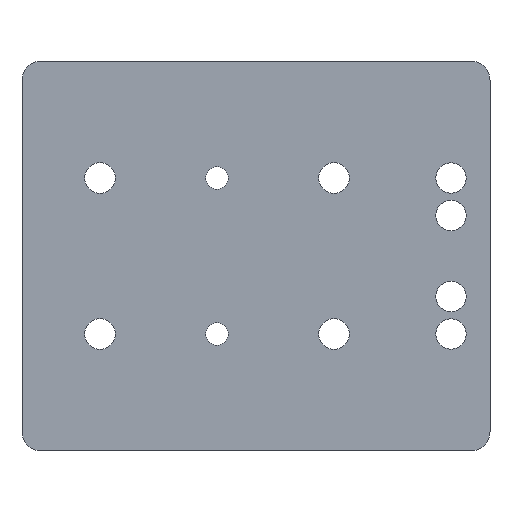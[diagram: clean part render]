
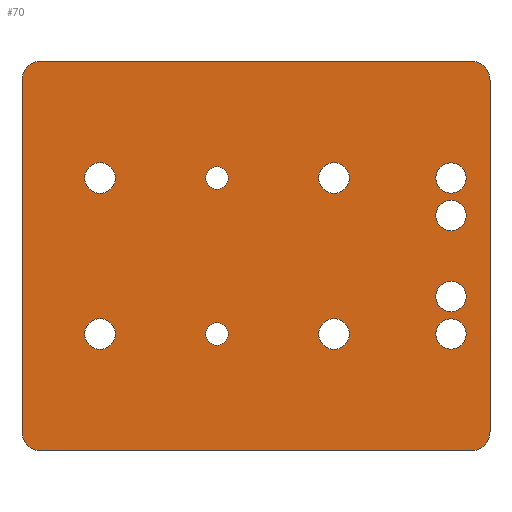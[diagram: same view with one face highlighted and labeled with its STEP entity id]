
A CAD part, front view. The second image highlights one B-rep face of the part: STEP entity #70.
In plain terms, the highlighted planar face has unit normal (0, -1, 0).
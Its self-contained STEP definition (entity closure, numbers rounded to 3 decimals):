
#70 = ADVANCED_FACE( '', ( #156, #157, #158, #159, #160, #161, #162, #163, #164, #165, #166 ), #167, .T. );
#156 = FACE_BOUND( '', #273, .T. );
#157 = FACE_BOUND( '', #274, .T. );
#158 = FACE_BOUND( '', #275, .T. );
#159 = FACE_BOUND( '', #276, .T. );
#160 = FACE_BOUND( '', #277, .T. );
#161 = FACE_BOUND( '', #278, .T. );
#162 = FACE_BOUND( '', #279, .T. );
#163 = FACE_BOUND( '', #280, .T. );
#164 = FACE_BOUND( '', #281, .T. );
#165 = FACE_BOUND( '', #282, .T. );
#166 = FACE_OUTER_BOUND( '', #283, .T. );
#167 = PLANE( '', #284 );
#273 = EDGE_LOOP( '', ( #421 ) );
#274 = EDGE_LOOP( '', ( #422 ) );
#275 = EDGE_LOOP( '', ( #423 ) );
#276 = EDGE_LOOP( '', ( #424 ) );
#277 = EDGE_LOOP( '', ( #425 ) );
#278 = EDGE_LOOP( '', ( #426 ) );
#279 = EDGE_LOOP( '', ( #427 ) );
#280 = EDGE_LOOP( '', ( #428 ) );
#281 = EDGE_LOOP( '', ( #429 ) );
#282 = EDGE_LOOP( '', ( #430 ) );
#283 = EDGE_LOOP( '', ( #431, #432, #433, #434, #435, #436, #437, #438 ) );
#284 = AXIS2_PLACEMENT_3D( '', #439, #440, #441 );
#421 = ORIENTED_EDGE( '', *, *, #602, .F. );
#422 = ORIENTED_EDGE( '', *, *, #575, .F. );
#423 = ORIENTED_EDGE( '', *, *, #564, .F. );
#424 = ORIENTED_EDGE( '', *, *, #603, .F. );
#425 = ORIENTED_EDGE( '', *, *, #604, .F. );
#426 = ORIENTED_EDGE( '', *, *, #605, .F. );
#427 = ORIENTED_EDGE( '', *, *, #606, .F. );
#428 = ORIENTED_EDGE( '', *, *, #607, .F. );
#429 = ORIENTED_EDGE( '', *, *, #608, .F. );
#430 = ORIENTED_EDGE( '', *, *, #572, .F. );
#431 = ORIENTED_EDGE( '', *, *, #609, .T. );
#432 = ORIENTED_EDGE( '', *, *, #610, .T. );
#433 = ORIENTED_EDGE( '', *, *, #611, .T. );
#434 = ORIENTED_EDGE( '', *, *, #584, .T. );
#435 = ORIENTED_EDGE( '', *, *, #612, .T. );
#436 = ORIENTED_EDGE( '', *, *, #613, .T. );
#437 = ORIENTED_EDGE( '', *, *, #599, .T. );
#438 = ORIENTED_EDGE( '', *, *, #589, .T. );
#439 = CARTESIAN_POINT( '', ( 38.1, 0., 31.75 ) );
#440 = DIRECTION( '', ( 0., -1., 0. ) );
#441 = DIRECTION( '', ( 0., 0., -1. ) );
#564 = EDGE_CURVE( '', #647, #647, #648, .T. );
#572 = EDGE_CURVE( '', #661, #661, #662, .T. );
#575 = EDGE_CURVE( '', #666, #666, #667, .T. );
#584 = EDGE_CURVE( '', #683, #681, #684, .T. );
#589 = EDGE_CURVE( '', #692, #690, #693, .T. );
#599 = EDGE_CURVE( '', #706, #692, #707, .T. );
#602 = EDGE_CURVE( '', #710, #710, #711, .T. );
#603 = EDGE_CURVE( '', #712, #712, #713, .T. );
#604 = EDGE_CURVE( '', #714, #714, #715, .T. );
#605 = EDGE_CURVE( '', #716, #716, #717, .T. );
#606 = EDGE_CURVE( '', #718, #718, #719, .T. );
#607 = EDGE_CURVE( '', #720, #720, #721, .T. );
#608 = EDGE_CURVE( '', #722, #722, #723, .T. );
#609 = EDGE_CURVE( '', #690, #724, #725, .T. );
#610 = EDGE_CURVE( '', #724, #726, #727, .T. );
#611 = EDGE_CURVE( '', #726, #683, #728, .T. );
#612 = EDGE_CURVE( '', #681, #729, #730, .T. );
#613 = EDGE_CURVE( '', #729, #706, #731, .T. );
#647 = VERTEX_POINT( '', #773 );
#648 = CIRCLE( '', #774, 2.464 );
#661 = VERTEX_POINT( '', #787 );
#662 = CIRCLE( '', #788, 1.84 );
#666 = VERTEX_POINT( '', #792 );
#667 = CIRCLE( '', #793, 2.464 );
#681 = VERTEX_POINT( '', #809 );
#683 = VERTEX_POINT( '', #812 );
#684 = CIRCLE( '', #813, 3.175 );
#690 = VERTEX_POINT( '', #820 );
#692 = VERTEX_POINT( '', #823 );
#693 = CIRCLE( '', #824, 3.175 );
#706 = VERTEX_POINT( '', #841 );
#707 = LINE( '', #842, #843 );
#710 = VERTEX_POINT( '', #847 );
#711 = CIRCLE( '', #848, 2.464 );
#712 = VERTEX_POINT( '', #849 );
#713 = CIRCLE( '', #850, 2.464 );
#714 = VERTEX_POINT( '', #851 );
#715 = CIRCLE( '', #852, 2.488 );
#716 = VERTEX_POINT( '', #853 );
#717 = CIRCLE( '', #854, 2.488 );
#718 = VERTEX_POINT( '', #855 );
#719 = CIRCLE( '', #856, 2.488 );
#720 = VERTEX_POINT( '', #857 );
#721 = CIRCLE( '', #858, 2.488 );
#722 = VERTEX_POINT( '', #859 );
#723 = CIRCLE( '', #860, 1.84 );
#724 = VERTEX_POINT( '', #861 );
#725 = LINE( '', #862, #863 );
#726 = VERTEX_POINT( '', #864 );
#727 = CIRCLE( '', #865, 3.175 );
#728 = LINE( '', #866, #867 );
#729 = VERTEX_POINT( '', #868 );
#730 = LINE( '', #869, #870 );
#731 = CIRCLE( '', #871, 3.175 );
#773 = CARTESIAN_POINT( '', ( 31.75, 0., -9.068 ) );
#774 = AXIS2_PLACEMENT_3D( '', #919, #920, #921 );
#787 = CARTESIAN_POINT( '', ( -6.35, 0., 10.86 ) );
#788 = AXIS2_PLACEMENT_3D( '', #937, #938, #939 );
#792 = CARTESIAN_POINT( '', ( 31.75, 0., -15.164 ) );
#793 = AXIS2_PLACEMENT_3D( '', #943, #944, #945 );
#809 = CARTESIAN_POINT( '', ( -38.1, 0., 28.575 ) );
#812 = CARTESIAN_POINT( '', ( -34.925, 0., 31.75 ) );
#813 = AXIS2_PLACEMENT_3D( '', #958, #959, #960 );
#820 = CARTESIAN_POINT( '', ( 38.1, 0., -28.575 ) );
#823 = CARTESIAN_POINT( '', ( 34.925, 0., -31.75 ) );
#824 = AXIS2_PLACEMENT_3D( '', #966, #967, #968 );
#841 = CARTESIAN_POINT( '', ( -34.925, 0., -31.75 ) );
#842 = CARTESIAN_POINT( '', ( -38.1, 0., -31.75 ) );
#843 = VECTOR( '', #979, 1000. );
#847 = CARTESIAN_POINT( '', ( 31.75, 0., 10.236 ) );
#848 = AXIS2_PLACEMENT_3D( '', #981, #982, #983 );
#849 = CARTESIAN_POINT( '', ( 31.75, 0., 4.14 ) );
#850 = AXIS2_PLACEMENT_3D( '', #984, #985, #986 );
#851 = CARTESIAN_POINT( '', ( -25.4, 0., 10.212 ) );
#852 = AXIS2_PLACEMENT_3D( '', #987, #988, #989 );
#853 = CARTESIAN_POINT( '', ( -25.4, 0., -15.188 ) );
#854 = AXIS2_PLACEMENT_3D( '', #990, #991, #992 );
#855 = CARTESIAN_POINT( '', ( 12.7, 0., -15.188 ) );
#856 = AXIS2_PLACEMENT_3D( '', #993, #994, #995 );
#857 = CARTESIAN_POINT( '', ( 12.7, 0., 10.212 ) );
#858 = AXIS2_PLACEMENT_3D( '', #996, #997, #998 );
#859 = CARTESIAN_POINT( '', ( -6.35, 0., -14.54 ) );
#860 = AXIS2_PLACEMENT_3D( '', #999, #1000, #1001 );
#861 = CARTESIAN_POINT( '', ( 38.1, 0., 28.575 ) );
#862 = CARTESIAN_POINT( '', ( 38.1, 0., -31.75 ) );
#863 = VECTOR( '', #1002, 1000. );
#864 = CARTESIAN_POINT( '', ( 34.925, 0., 31.75 ) );
#865 = AXIS2_PLACEMENT_3D( '', #1003, #1004, #1005 );
#866 = CARTESIAN_POINT( '', ( 38.1, 0., 31.75 ) );
#867 = VECTOR( '', #1006, 1000. );
#868 = CARTESIAN_POINT( '', ( -38.1, 0., -28.575 ) );
#869 = CARTESIAN_POINT( '', ( -38.1, 0., 31.75 ) );
#870 = VECTOR( '', #1007, 1000. );
#871 = AXIS2_PLACEMENT_3D( '', #1008, #1009, #1010 );
#919 = CARTESIAN_POINT( '', ( 31.75, 0., -6.604 ) );
#920 = DIRECTION( '', ( 0., -1., 0. ) );
#921 = DIRECTION( '', ( 0., 0., -1. ) );
#937 = CARTESIAN_POINT( '', ( -6.35, 0., 12.7 ) );
#938 = DIRECTION( '', ( 0., -1., 0. ) );
#939 = DIRECTION( '', ( 0., 0., -1. ) );
#943 = CARTESIAN_POINT( '', ( 31.75, 0., -12.7 ) );
#944 = DIRECTION( '', ( 0., -1., 0. ) );
#945 = DIRECTION( '', ( 0., 0., -1. ) );
#958 = CARTESIAN_POINT( '', ( -34.925, 0., 28.575 ) );
#959 = DIRECTION( '', ( 0., -1., 0. ) );
#960 = DIRECTION( '', ( 0., 0., -1. ) );
#966 = CARTESIAN_POINT( '', ( 34.925, 0., -28.575 ) );
#967 = DIRECTION( '', ( 0., -1., 0. ) );
#968 = DIRECTION( '', ( 0., 0., -1. ) );
#979 = DIRECTION( '', ( 1., 0., 0. ) );
#981 = CARTESIAN_POINT( '', ( 31.75, 0., 12.7 ) );
#982 = DIRECTION( '', ( 0., -1., 0. ) );
#983 = DIRECTION( '', ( 0., 0., -1. ) );
#984 = CARTESIAN_POINT( '', ( 31.75, 0., 6.604 ) );
#985 = DIRECTION( '', ( 0., -1., 0. ) );
#986 = DIRECTION( '', ( 0., 0., -1. ) );
#987 = CARTESIAN_POINT( '', ( -25.4, 0., 12.7 ) );
#988 = DIRECTION( '', ( 0., -1., 0. ) );
#989 = DIRECTION( '', ( 0., 0., -1. ) );
#990 = CARTESIAN_POINT( '', ( -25.4, 0., -12.7 ) );
#991 = DIRECTION( '', ( 0., -1., 0. ) );
#992 = DIRECTION( '', ( 0., 0., -1. ) );
#993 = CARTESIAN_POINT( '', ( 12.7, 0., -12.7 ) );
#994 = DIRECTION( '', ( 0., -1., 0. ) );
#995 = DIRECTION( '', ( 0., 0., -1. ) );
#996 = CARTESIAN_POINT( '', ( 12.7, 0., 12.7 ) );
#997 = DIRECTION( '', ( 0., -1., 0. ) );
#998 = DIRECTION( '', ( 0., 0., -1. ) );
#999 = CARTESIAN_POINT( '', ( -6.35, 0., -12.7 ) );
#1000 = DIRECTION( '', ( 0., -1., 0. ) );
#1001 = DIRECTION( '', ( 0., 0., -1. ) );
#1002 = DIRECTION( '', ( 0., 0., 1. ) );
#1003 = CARTESIAN_POINT( '', ( 34.925, 0., 28.575 ) );
#1004 = DIRECTION( '', ( 0., -1., 0. ) );
#1005 = DIRECTION( '', ( 0., 0., -1. ) );
#1006 = DIRECTION( '', ( -1., 0., 0. ) );
#1007 = DIRECTION( '', ( 0., 0., -1. ) );
#1008 = CARTESIAN_POINT( '', ( -34.925, 0., -28.575 ) );
#1009 = DIRECTION( '', ( 0., -1., 0. ) );
#1010 = DIRECTION( '', ( 0., 0., -1. ) );
